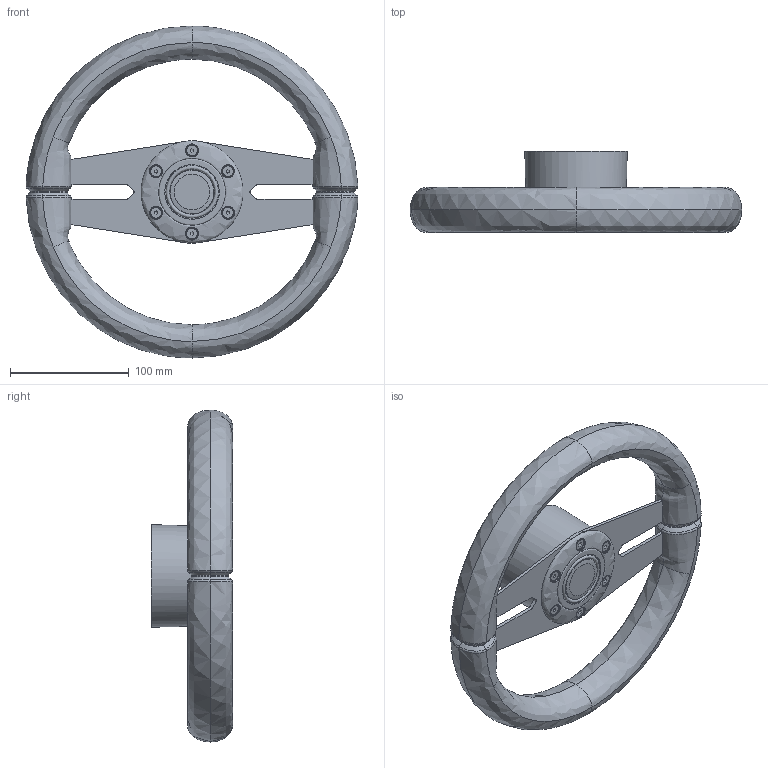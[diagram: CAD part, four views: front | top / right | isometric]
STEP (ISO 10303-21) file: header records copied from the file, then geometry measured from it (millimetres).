
FILE_DESCRIPTION(/* description */ (''),/* implementation_level */ '2;1');
FILE_NAME(/* name */ 'GIANNU~1',/* time_stamp */ '2022-11-08T14:33:17+01:00',/* author */ (''),/* organization */ (''),/* preprocessor_version */ 'ST-DEVELOPER v16.5',/* originating_system */ '',/* authorisation */ '');
FILE_SCHEMA (('AUTOMOTIVE_DESIGN'));
Length unit declared in the file: millimetre
Products named in the file (1): Document
Bounding box: 279.82 x 68.5 x 280 mm (x, y, z)
Volume: 1006142.1 mm3; surface area: 155822.2 mm2
Topology: 12 solids, 12 shells, 209 faces, 460 edges, 282 vertices
Faces by surface type: bspline 117, plane 66, cylinder 26
Full cylindrical faces by diameter (mm): 5.5 x6, 6 x6, 10.4 x6, 37 x1, 46 x1, 51 x1, 52 x1, 55 x1, 56.2 x1
Entity records: 10704 total; most frequent: CARTESIAN_POINT 7666, ORIENTED_EDGE 920, EDGE_CURVE 460, VERTEX_POINT 282, EDGE_LOOP 246, B_SPLINE_CURVE_WITH_KNOTS 228, ADVANCED_FACE 209, FACE_OUTER_BOUND 209
